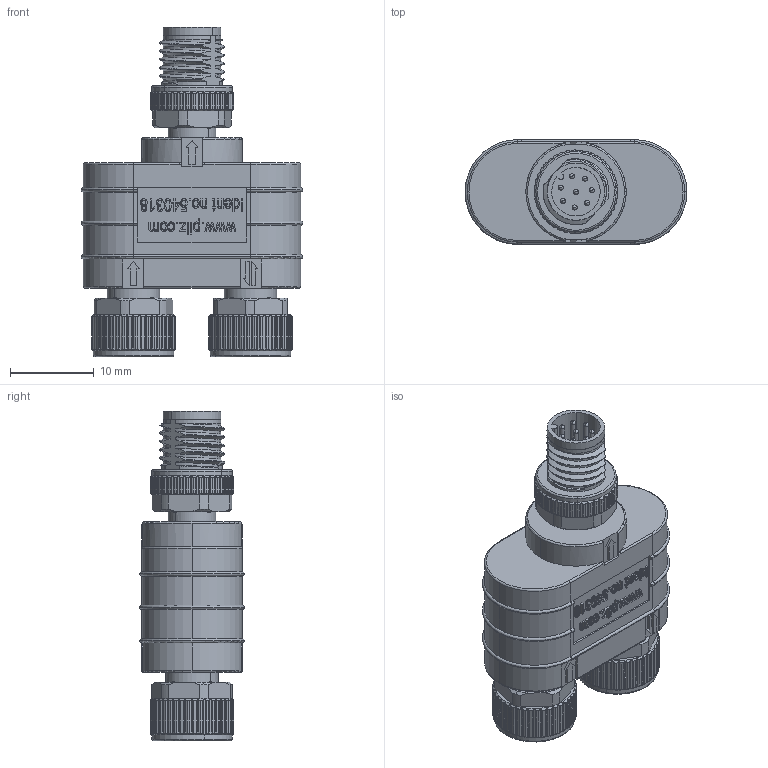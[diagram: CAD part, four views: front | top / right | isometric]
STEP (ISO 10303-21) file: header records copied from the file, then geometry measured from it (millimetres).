
FILE_DESCRIPTION((''),'2;1');
FILE_NAME('2018615','2015-10-30T',('smayer'),(''),'PRO/ENGINEER BY PARAMETRIC TECHNOLOGY CORPORATION, 2015110','PRO/ENGINEER BY PARAMETRIC TECHNOLOGY CORPORATION, 2015110','');
FILE_SCHEMA(('AUTOMOTIVE_DESIGN { 1 0 10303 214 1 1 1 1 }'));
Products named in the file (1): 2018615
Bounding box: 26.5 x 12.5 x 39.4 mm (x, y, z)
Surface area: 4858.4 mm2 (no closed solid volume)
Topology: 0 solids, 18 shells, 2038 faces, 6126 edges, 3968 vertices
Faces by surface type: cylinder 918, plane 653, extrusion 231, cone 81, bspline 75, torus 60, sphere 20
Entity records: 124816 total; most frequent: CARTESIAN_POINT 39974, ORIENTED_EDGE 11329, DIRECTION 8983, PRESENTATION_STYLE_ASSIGNMENT 8391, STYLED_ITEM 6353, CURVE_STYLE 6338, EDGE_CURVE 6106, VERTEX_POINT 3968
